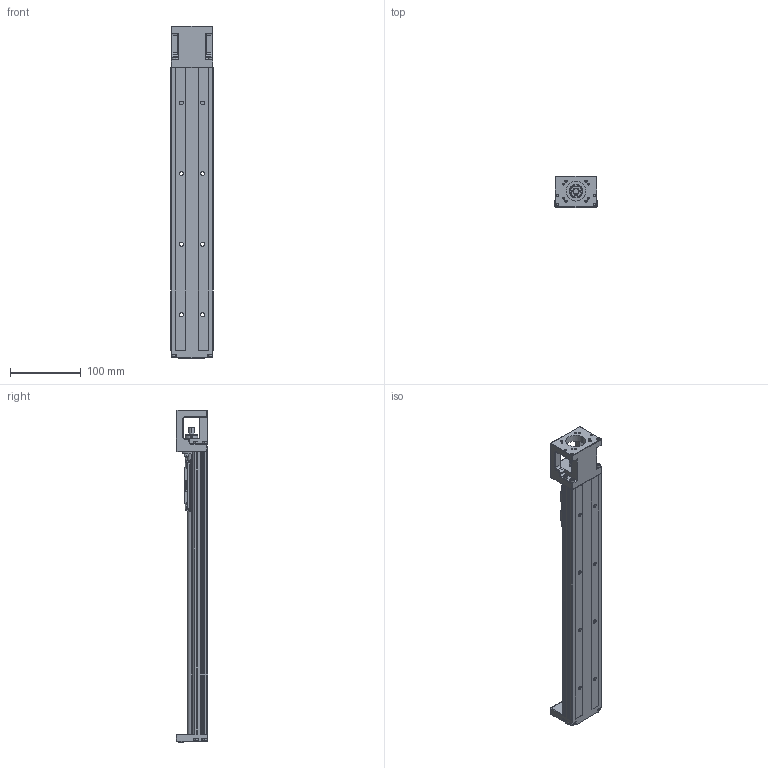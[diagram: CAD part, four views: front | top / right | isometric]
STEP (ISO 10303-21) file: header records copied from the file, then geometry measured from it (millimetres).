
FILE_DESCRIPTION (( 'STEP AP214' ), '1' );
FILE_NAME ('7.0113 KT6005C-400A1-F0B.STEP', '2026-03-17T10:48:33', ( '' ), ( '' ), 'SwSTEP 2.0', 'SolidWorks 2025', '' );
FILE_SCHEMA (( 'AUTOMOTIVE_DESIGN' ));
Length unit declared in the file: millimetre
Products named in the file (3): KT60-A1; 7.0113 KT6005C-400A1-F0B; KT60-K0_400
Assembly tree (2 placements, depth 2):
  7.0113 KT6005C-400A1-F0B
    KT60-K0_400
    KT60-A1
Bounding box: 60 x 44.5 x 470.2 mm (x, y, z)
Volume: 463231.5 mm3; surface area: 151597.3 mm2
Topology: 21 solids, 21 shells, 1362 faces, 3599 edges, 2297 vertices
Faces by surface type: plane 675, cylinder 484, cone 108, torus 63, bspline 17, sphere 15
Entity records: 59782 total; most frequent: CARTESIAN_POINT 12017, DIRECTION 7183, ORIENTED_EDGE 7088, EDGE_CURVE 3544, AXIS2_PLACEMENT_3D 2510, VERTEX_POINT 2297, LINE 2163, VECTOR 2163
